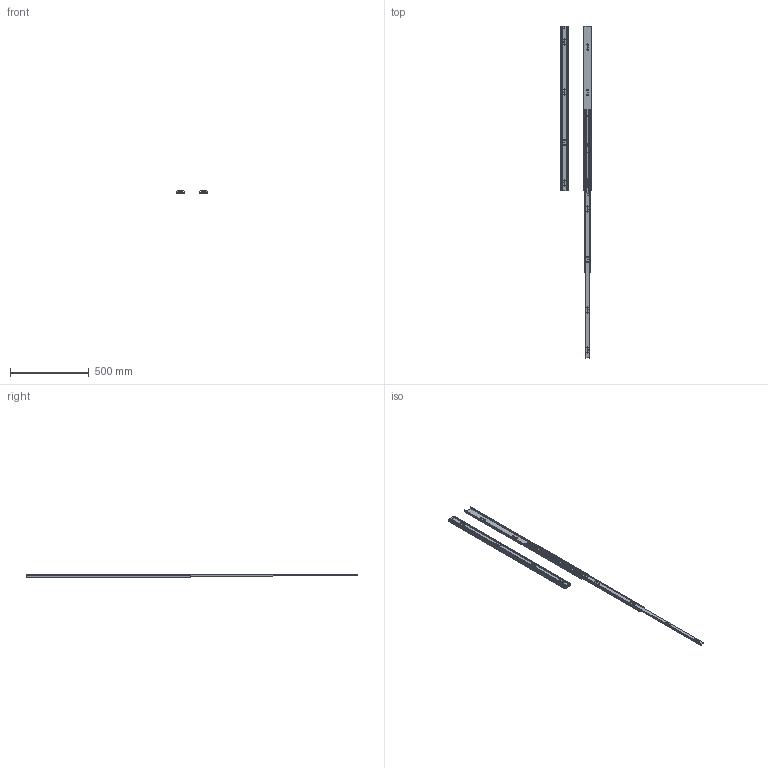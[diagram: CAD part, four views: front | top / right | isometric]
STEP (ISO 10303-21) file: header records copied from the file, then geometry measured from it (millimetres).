
FILE_DESCRIPTION( ( 'Unknown' ), '1' );
FILE_NAME( 'C:/Users/T170313/Desktop/76008-1050~1200/76008-1050/76008-1050(閉合+展長).stp', 'Unknown', ( 'Unknown' ), ( 'Unknown' ), 'PSStep 14.0', 'Unknown', ' ' );
FILE_SCHEMA( ( 'AUTOMOTIVE_DESIGN { 1 0 10303 214 1 1 1 1 }' ) );
Length unit declared in the file: millimetre
Products named in the file (6): 76008-1050; 外框-1050; 中框-1050; 內框-1050; 76008-1050-\X2\5C55957\X0\; Assem1
Assembly tree (8 placements, depth 3):
  Assem1
    76008-1050
      外框-1050
      中框-1050
      內框-1050
    76008-1050-\X2\5C55957\X0\
      外框-1050
      中框-1050
      內框-1050
Bounding box: 202.13 x 2113.45 x 19 mm (x, y, z)
Volume: 749655.1 mm3; surface area: 782016.4 mm2
Topology: 6 solids, 6 shells, 856 faces, 2582 edges, 1722 vertices
Faces by surface type: plane 380, cylinder 348, cone 128
Full cylindrical faces by diameter (mm): 5 x20
Entity records: 18526 total; most frequent: CARTESIAN_POINT 3187, ORIENTED_EDGE 2560, DIRECTION 2426, EDGE_CURVE 1280, AXIS2_PLACEMENT_3D 867, VERTEX_POINT 860, LINE 692, VECTOR 692
